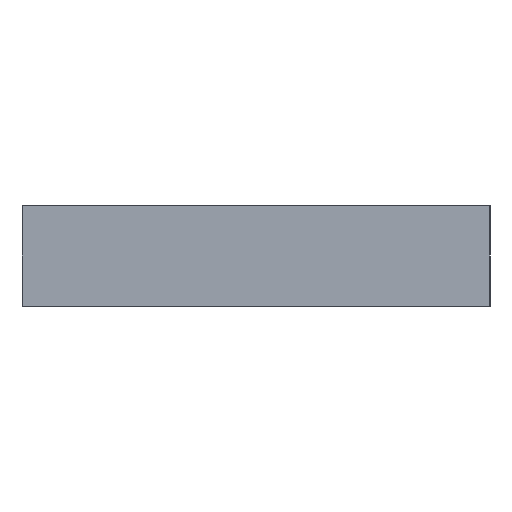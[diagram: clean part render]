
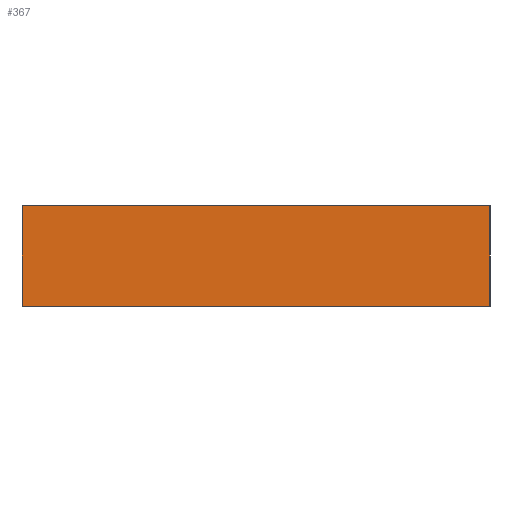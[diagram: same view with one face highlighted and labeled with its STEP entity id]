
A CAD part, front view. The second image highlights one B-rep face of the part: STEP entity #367.
In plain terms, the highlighted planar face has unit normal (0, -1, 0).
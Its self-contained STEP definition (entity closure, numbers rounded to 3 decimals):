
#13 = CARTESIAN_POINT ( 'NONE',  ( 7., -608.5, 3. ) ) ;
#18 = EDGE_CURVE ( 'NONE', #623, #257, #559, .T. ) ;
#28 = ORIENTED_EDGE ( 'NONE', *, *, #52, .F. ) ;
#33 = VECTOR ( 'NONE', #743, 1000. ) ;
#35 = VECTOR ( 'NONE', #663, 1000. ) ;
#52 = EDGE_CURVE ( 'NONE', #235, #794, #366, .T. ) ;
#121 = LINE ( 'NONE', #526, #290 ) ;
#123 = CARTESIAN_POINT ( 'NONE',  ( 0., -608.5, 3. ) ) ;
#130 = FACE_OUTER_BOUND ( 'NONE', #405, .T. ) ;
#134 = EDGE_CURVE ( 'NONE', #257, #794, #121, .T. ) ;
#136 = CARTESIAN_POINT ( 'NONE',  ( -7., -608.5, 0. ) ) ;
#157 = CARTESIAN_POINT ( 'NONE',  ( 7., -608.5, 3. ) ) ;
#235 = VERTEX_POINT ( 'NONE', #13 ) ;
#249 = DIRECTION ( 'NONE',  ( 0., 1., 0. ) ) ;
#257 = VERTEX_POINT ( 'NONE', #136 ) ;
#260 = CARTESIAN_POINT ( 'NONE',  ( 7., -608.5, 0. ) ) ;
#290 = VECTOR ( 'NONE', #705, 1000. ) ;
#366 = LINE ( 'NONE', #157, #35 ) ;
#367 = ADVANCED_FACE ( 'NONE', ( #130 ), #436, .F. ) ;
#384 = EDGE_CURVE ( 'NONE', #623, #235, #556, .T. ) ;
#405 = EDGE_LOOP ( 'NONE', ( #524, #28, #606, #795 ) ) ;
#435 = CARTESIAN_POINT ( 'NONE',  ( 0., -608.5, 3. ) ) ;
#436 = PLANE ( 'NONE',  #550 ) ;
#479 = CARTESIAN_POINT ( 'NONE',  ( -7., -608.5, 3. ) ) ;
#524 = ORIENTED_EDGE ( 'NONE', *, *, #134, .T. ) ;
#526 = CARTESIAN_POINT ( 'NONE',  ( 0., -608.5, 0. ) ) ;
#538 = VECTOR ( 'NONE', #769, 1000. ) ;
#550 = AXIS2_PLACEMENT_3D ( 'NONE', #123, #249, #622 ) ;
#556 = LINE ( 'NONE', #435, #33 ) ;
#559 = LINE ( 'NONE', #708, #538 ) ;
#606 = ORIENTED_EDGE ( 'NONE', *, *, #384, .F. ) ;
#622 = DIRECTION ( 'NONE',  ( 0., 0., 1. ) ) ;
#623 = VERTEX_POINT ( 'NONE', #479 ) ;
#663 = DIRECTION ( 'NONE',  ( 0., 0., -1. ) ) ;
#705 = DIRECTION ( 'NONE',  ( 1., 0., 0. ) ) ;
#708 = CARTESIAN_POINT ( 'NONE',  ( -7., -608.5, 3. ) ) ;
#743 = DIRECTION ( 'NONE',  ( 1., 0., 0. ) ) ;
#769 = DIRECTION ( 'NONE',  ( 0., 0., -1. ) ) ;
#794 = VERTEX_POINT ( 'NONE', #260 ) ;
#795 = ORIENTED_EDGE ( 'NONE', *, *, #18, .T. ) ;
